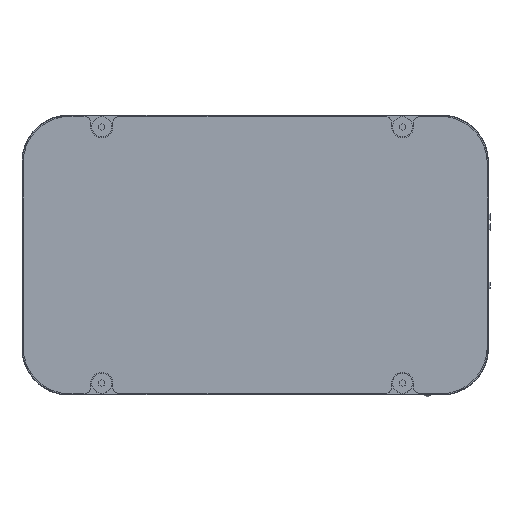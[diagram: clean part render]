
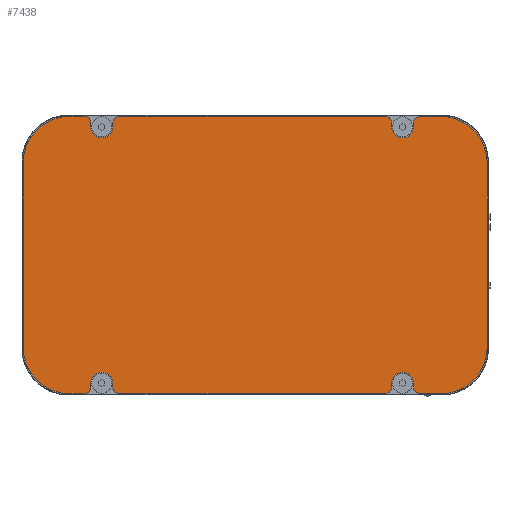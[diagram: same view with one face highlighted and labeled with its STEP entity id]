
A CAD part, front view. The second image highlights one B-rep face of the part: STEP entity #7438.
In plain terms, the highlighted planar face has unit normal (0, -1, 0).
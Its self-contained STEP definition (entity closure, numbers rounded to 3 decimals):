
#428=LINE('',#11507,#1130);
#431=LINE('',#11515,#1133);
#434=LINE('',#11523,#1136);
#437=LINE('',#11531,#1139);
#440=LINE('',#11539,#1142);
#443=LINE('',#11547,#1145);
#446=LINE('',#11555,#1148);
#449=LINE('',#11563,#1151);
#452=LINE('',#11571,#1154);
#455=LINE('',#11579,#1157);
#458=LINE('',#11587,#1160);
#461=LINE('',#11595,#1163);
#464=LINE('',#11603,#1166);
#467=LINE('',#11611,#1169);
#470=LINE('',#11619,#1172);
#473=LINE('',#11627,#1175);
#1130=VECTOR('',#9076,1000.);
#1133=VECTOR('',#9085,1000.);
#1136=VECTOR('',#9094,1000.);
#1139=VECTOR('',#9103,1000.);
#1142=VECTOR('',#9112,1000.);
#1145=VECTOR('',#9121,1000.);
#1148=VECTOR('',#9130,1000.);
#1151=VECTOR('',#9139,1000.);
#1154=VECTOR('',#9148,1000.);
#1157=VECTOR('',#9157,1000.);
#1160=VECTOR('',#9166,1000.);
#1163=VECTOR('',#9175,1000.);
#1166=VECTOR('',#9184,1000.);
#1169=VECTOR('',#9193,1000.);
#1172=VECTOR('',#9202,1000.);
#1175=VECTOR('',#9211,1000.);
#2114=ORIENTED_EDGE('',*,*,#4030,.F.);
#2115=ORIENTED_EDGE('',*,*,#4092,.F.);
#2116=ORIENTED_EDGE('',*,*,#4090,.F.);
#2117=ORIENTED_EDGE('',*,*,#4088,.F.);
#2118=ORIENTED_EDGE('',*,*,#4086,.T.);
#2119=ORIENTED_EDGE('',*,*,#4084,.F.);
#2120=ORIENTED_EDGE('',*,*,#4082,.F.);
#2121=ORIENTED_EDGE('',*,*,#4080,.F.);
#2122=ORIENTED_EDGE('',*,*,#4078,.F.);
#2123=ORIENTED_EDGE('',*,*,#4076,.F.);
#2124=ORIENTED_EDGE('',*,*,#4074,.T.);
#2125=ORIENTED_EDGE('',*,*,#4072,.F.);
#2126=ORIENTED_EDGE('',*,*,#4070,.F.);
#2127=ORIENTED_EDGE('',*,*,#4068,.F.);
#2128=ORIENTED_EDGE('',*,*,#4066,.F.);
#2129=ORIENTED_EDGE('',*,*,#4064,.F.);
#2130=ORIENTED_EDGE('',*,*,#4062,.F.);
#2131=ORIENTED_EDGE('',*,*,#4060,.F.);
#2132=ORIENTED_EDGE('',*,*,#4058,.F.);
#2133=ORIENTED_EDGE('',*,*,#4056,.F.);
#2134=ORIENTED_EDGE('',*,*,#4054,.T.);
#2135=ORIENTED_EDGE('',*,*,#4052,.F.);
#2136=ORIENTED_EDGE('',*,*,#4050,.F.);
#2137=ORIENTED_EDGE('',*,*,#4048,.F.);
#2138=ORIENTED_EDGE('',*,*,#4046,.F.);
#2139=ORIENTED_EDGE('',*,*,#4044,.F.);
#2140=ORIENTED_EDGE('',*,*,#4042,.T.);
#2141=ORIENTED_EDGE('',*,*,#4040,.F.);
#2142=ORIENTED_EDGE('',*,*,#4038,.F.);
#2143=ORIENTED_EDGE('',*,*,#4036,.F.);
#2144=ORIENTED_EDGE('',*,*,#4034,.F.);
#2145=ORIENTED_EDGE('',*,*,#4032,.F.);
#4030=EDGE_CURVE('',#5051,#5052,#5660,.T.);
#4032=EDGE_CURVE('',#5052,#5053,#428,.T.);
#4034=EDGE_CURVE('',#5053,#5054,#5661,.T.);
#4036=EDGE_CURVE('',#5054,#5055,#431,.T.);
#4038=EDGE_CURVE('',#5055,#5056,#5662,.T.);
#4040=EDGE_CURVE('',#5056,#5057,#434,.T.);
#4042=EDGE_CURVE('',#5058,#5057,#5663,.T.);
#4044=EDGE_CURVE('',#5058,#5059,#437,.T.);
#4046=EDGE_CURVE('',#5059,#5060,#5664,.T.);
#4048=EDGE_CURVE('',#5060,#5061,#440,.T.);
#4050=EDGE_CURVE('',#5061,#5062,#5665,.T.);
#4052=EDGE_CURVE('',#5062,#5063,#443,.T.);
#4054=EDGE_CURVE('',#5064,#5063,#5666,.T.);
#4056=EDGE_CURVE('',#5064,#5065,#446,.T.);
#4058=EDGE_CURVE('',#5065,#5066,#5667,.T.);
#4060=EDGE_CURVE('',#5066,#5067,#449,.T.);
#4062=EDGE_CURVE('',#5067,#5068,#5668,.T.);
#4064=EDGE_CURVE('',#5068,#5069,#452,.T.);
#4066=EDGE_CURVE('',#5069,#5070,#5669,.T.);
#4068=EDGE_CURVE('',#5070,#5071,#455,.T.);
#4070=EDGE_CURVE('',#5071,#5072,#5670,.T.);
#4072=EDGE_CURVE('',#5072,#5073,#458,.T.);
#4074=EDGE_CURVE('',#5074,#5073,#5671,.T.);
#4076=EDGE_CURVE('',#5074,#5075,#461,.T.);
#4078=EDGE_CURVE('',#5075,#5076,#5672,.T.);
#4080=EDGE_CURVE('',#5076,#5077,#464,.T.);
#4082=EDGE_CURVE('',#5077,#5078,#5673,.T.);
#4084=EDGE_CURVE('',#5078,#5079,#467,.T.);
#4086=EDGE_CURVE('',#5080,#5079,#5674,.T.);
#4088=EDGE_CURVE('',#5080,#5081,#470,.T.);
#4090=EDGE_CURVE('',#5081,#5082,#5675,.T.);
#4092=EDGE_CURVE('',#5082,#5051,#473,.T.);
#5051=VERTEX_POINT('',#11502);
#5052=VERTEX_POINT('',#11504);
#5053=VERTEX_POINT('',#11508);
#5054=VERTEX_POINT('',#11512);
#5055=VERTEX_POINT('',#11516);
#5056=VERTEX_POINT('',#11520);
#5057=VERTEX_POINT('',#11524);
#5058=VERTEX_POINT('',#11528);
#5059=VERTEX_POINT('',#11532);
#5060=VERTEX_POINT('',#11536);
#5061=VERTEX_POINT('',#11540);
#5062=VERTEX_POINT('',#11544);
#5063=VERTEX_POINT('',#11548);
#5064=VERTEX_POINT('',#11552);
#5065=VERTEX_POINT('',#11556);
#5066=VERTEX_POINT('',#11560);
#5067=VERTEX_POINT('',#11564);
#5068=VERTEX_POINT('',#11568);
#5069=VERTEX_POINT('',#11572);
#5070=VERTEX_POINT('',#11576);
#5071=VERTEX_POINT('',#11580);
#5072=VERTEX_POINT('',#11584);
#5073=VERTEX_POINT('',#11588);
#5074=VERTEX_POINT('',#11592);
#5075=VERTEX_POINT('',#11596);
#5076=VERTEX_POINT('',#11600);
#5077=VERTEX_POINT('',#11604);
#5078=VERTEX_POINT('',#11608);
#5079=VERTEX_POINT('',#11612);
#5080=VERTEX_POINT('',#11616);
#5081=VERTEX_POINT('',#11620);
#5082=VERTEX_POINT('',#11624);
#5660=CIRCLE('',#8015,20.);
#5661=CIRCLE('',#8018,20.);
#5662=CIRCLE('',#8021,3.);
#5663=CIRCLE('',#8024,4.7);
#5664=CIRCLE('',#8027,3.);
#5665=CIRCLE('',#8030,3.);
#5666=CIRCLE('',#8033,4.7);
#5667=CIRCLE('',#8036,3.);
#5668=CIRCLE('',#8039,20.);
#5669=CIRCLE('',#8042,20.);
#5670=CIRCLE('',#8045,3.);
#5671=CIRCLE('',#8048,4.7);
#5672=CIRCLE('',#8051,3.);
#5673=CIRCLE('',#8054,3.);
#5674=CIRCLE('',#8057,4.7);
#5675=CIRCLE('',#8060,3.);
#5966=EDGE_LOOP('',(#2114,#2115,#2116,#2117,#2118,#2119,#2120,#2121,#2122,
#2123,#2124,#2125,#2126,#2127,#2128,#2129,#2130,#2131,#2132,#2133,#2134,
#2135,#2136,#2137,#2138,#2139,#2140,#2141,#2142,#2143,#2144,#2145));
#6564=FACE_BOUND('',#5966,.T.);
#7110=PLANE('',#8062);
#7438=ADVANCED_FACE('',(#6564),#7110,.F.);
#8015=AXIS2_PLACEMENT_3D('',#11503,#9071,#9072);
#8018=AXIS2_PLACEMENT_3D('',#11511,#9080,#9081);
#8021=AXIS2_PLACEMENT_3D('',#11519,#9089,#9090);
#8024=AXIS2_PLACEMENT_3D('',#11527,#9098,#9099);
#8027=AXIS2_PLACEMENT_3D('',#11535,#9107,#9108);
#8030=AXIS2_PLACEMENT_3D('',#11543,#9116,#9117);
#8033=AXIS2_PLACEMENT_3D('',#11551,#9125,#9126);
#8036=AXIS2_PLACEMENT_3D('',#11559,#9134,#9135);
#8039=AXIS2_PLACEMENT_3D('',#11567,#9143,#9144);
#8042=AXIS2_PLACEMENT_3D('',#11575,#9152,#9153);
#8045=AXIS2_PLACEMENT_3D('',#11583,#9161,#9162);
#8048=AXIS2_PLACEMENT_3D('',#11591,#9170,#9171);
#8051=AXIS2_PLACEMENT_3D('',#11599,#9179,#9180);
#8054=AXIS2_PLACEMENT_3D('',#11607,#9188,#9189);
#8057=AXIS2_PLACEMENT_3D('',#11615,#9197,#9198);
#8060=AXIS2_PLACEMENT_3D('',#11623,#9206,#9207);
#8062=AXIS2_PLACEMENT_3D('',#11628,#9212,#9213);
#9071=DIRECTION('',(0.,1.,0.));
#9072=DIRECTION('',(1.,0.,0.));
#9076=DIRECTION('',(0.,0.,1.));
#9080=DIRECTION('',(0.,1.,0.));
#9081=DIRECTION('',(1.,0.,0.));
#9085=DIRECTION('',(1.,0.,0.));
#9089=DIRECTION('',(0.,1.,0.));
#9090=DIRECTION('',(1.,0.,0.));
#9094=DIRECTION('',(0.,0.,-1.));
#9098=DIRECTION('',(0.,1.,0.));
#9099=DIRECTION('',(1.,0.,0.));
#9103=DIRECTION('',(0.,0.,1.));
#9107=DIRECTION('',(0.,1.,0.));
#9108=DIRECTION('',(1.,0.,0.));
#9112=DIRECTION('',(1.,0.,0.));
#9116=DIRECTION('',(0.,1.,0.));
#9117=DIRECTION('',(1.,0.,0.));
#9121=DIRECTION('',(0.,0.,-1.));
#9125=DIRECTION('',(0.,1.,0.));
#9126=DIRECTION('',(1.,0.,0.));
#9130=DIRECTION('',(0.,0.,1.));
#9134=DIRECTION('',(0.,1.,0.));
#9135=DIRECTION('',(1.,0.,0.));
#9139=DIRECTION('',(1.,0.,0.));
#9143=DIRECTION('',(0.,1.,0.));
#9144=DIRECTION('',(1.,0.,0.));
#9148=DIRECTION('',(0.,0.,-1.));
#9152=DIRECTION('',(0.,1.,0.));
#9153=DIRECTION('',(1.,0.,0.));
#9157=DIRECTION('',(-1.,0.,0.));
#9161=DIRECTION('',(0.,1.,0.));
#9162=DIRECTION('',(1.,0.,0.));
#9166=DIRECTION('',(0.,0.,1.));
#9170=DIRECTION('',(0.,1.,0.));
#9171=DIRECTION('',(1.,0.,0.));
#9175=DIRECTION('',(0.,0.,-1.));
#9179=DIRECTION('',(0.,1.,0.));
#9180=DIRECTION('',(1.,0.,0.));
#9184=DIRECTION('',(-1.,0.,0.));
#9188=DIRECTION('',(0.,1.,0.));
#9189=DIRECTION('',(1.,0.,0.));
#9193=DIRECTION('',(0.,0.,1.));
#9197=DIRECTION('',(0.,1.,0.));
#9198=DIRECTION('',(1.,0.,0.));
#9202=DIRECTION('',(0.,0.,-1.));
#9206=DIRECTION('',(0.,1.,0.));
#9207=DIRECTION('',(1.,0.,0.));
#9211=DIRECTION('',(-1.,0.,0.));
#9212=DIRECTION('',(0.,1.,0.));
#9213=DIRECTION('',(0.,0.,1.));
#11502=CARTESIAN_POINT('',(-79.5,-91.,-59.5));
#11503=CARTESIAN_POINT('',(-79.5,-91.,-39.5));
#11504=CARTESIAN_POINT('',(-99.5,-91.,-39.5));
#11507=CARTESIAN_POINT('',(-99.5,-91.,-39.5));
#11508=CARTESIAN_POINT('',(-99.5,-91.,39.5));
#11511=CARTESIAN_POINT('',(-79.5,-91.,39.5));
#11512=CARTESIAN_POINT('',(-79.5,-91.,59.5));
#11515=CARTESIAN_POINT('',(-79.5,-91.,59.5));
#11516=CARTESIAN_POINT('',(-73.5,-91.,59.5));
#11519=CARTESIAN_POINT('',(-73.5,-91.,56.5));
#11520=CARTESIAN_POINT('',(-70.5,-91.,56.5));
#11523=CARTESIAN_POINT('',(-70.5,-91.,56.5));
#11524=CARTESIAN_POINT('',(-70.5,-91.,55.));
#11527=CARTESIAN_POINT('',(-65.8,-91.,55.));
#11528=CARTESIAN_POINT('',(-61.1,-91.,55.));
#11531=CARTESIAN_POINT('',(-61.1,-91.,55.));
#11532=CARTESIAN_POINT('',(-61.1,-91.,56.5));
#11535=CARTESIAN_POINT('',(-58.1,-91.,56.5));
#11536=CARTESIAN_POINT('',(-58.1,-91.,59.5));
#11539=CARTESIAN_POINT('',(-58.1,-91.,59.5));
#11540=CARTESIAN_POINT('',(55.5,-91.,59.5));
#11543=CARTESIAN_POINT('',(55.5,-91.,56.5));
#11544=CARTESIAN_POINT('',(58.5,-91.,56.5));
#11547=CARTESIAN_POINT('',(58.5,-91.,56.5));
#11548=CARTESIAN_POINT('',(58.5,-91.,55.));
#11551=CARTESIAN_POINT('',(63.2,-91.,55.));
#11552=CARTESIAN_POINT('',(67.9,-91.,55.));
#11555=CARTESIAN_POINT('',(67.9,-91.,55.));
#11556=CARTESIAN_POINT('',(67.9,-91.,56.5));
#11559=CARTESIAN_POINT('',(70.9,-91.,56.5));
#11560=CARTESIAN_POINT('',(70.9,-91.,59.5));
#11563=CARTESIAN_POINT('',(70.9,-91.,59.5));
#11564=CARTESIAN_POINT('',(79.5,-91.,59.5));
#11567=CARTESIAN_POINT('',(79.5,-91.,39.5));
#11568=CARTESIAN_POINT('',(99.5,-91.,39.5));
#11571=CARTESIAN_POINT('',(99.5,-91.,39.5));
#11572=CARTESIAN_POINT('',(99.5,-91.,-39.5));
#11575=CARTESIAN_POINT('',(79.5,-91.,-39.5));
#11576=CARTESIAN_POINT('',(79.5,-91.,-59.5));
#11579=CARTESIAN_POINT('',(79.5,-91.,-59.5));
#11580=CARTESIAN_POINT('',(70.9,-91.,-59.5));
#11583=CARTESIAN_POINT('',(70.9,-91.,-56.5));
#11584=CARTESIAN_POINT('',(67.9,-91.,-56.5));
#11587=CARTESIAN_POINT('',(67.9,-91.,-56.5));
#11588=CARTESIAN_POINT('',(67.9,-91.,-55.));
#11591=CARTESIAN_POINT('',(63.2,-91.,-55.));
#11592=CARTESIAN_POINT('',(58.5,-91.,-55.));
#11595=CARTESIAN_POINT('',(58.5,-91.,-55.));
#11596=CARTESIAN_POINT('',(58.5,-91.,-56.5));
#11599=CARTESIAN_POINT('',(55.5,-91.,-56.5));
#11600=CARTESIAN_POINT('',(55.5,-91.,-59.5));
#11603=CARTESIAN_POINT('',(55.5,-91.,-59.5));
#11604=CARTESIAN_POINT('',(-58.1,-91.,-59.5));
#11607=CARTESIAN_POINT('',(-58.1,-91.,-56.5));
#11608=CARTESIAN_POINT('',(-61.1,-91.,-56.5));
#11611=CARTESIAN_POINT('',(-61.1,-91.,-56.5));
#11612=CARTESIAN_POINT('',(-61.1,-91.,-55.));
#11615=CARTESIAN_POINT('',(-65.8,-91.,-55.));
#11616=CARTESIAN_POINT('',(-70.5,-91.,-55.));
#11619=CARTESIAN_POINT('',(-70.5,-91.,-55.));
#11620=CARTESIAN_POINT('',(-70.5,-91.,-56.5));
#11623=CARTESIAN_POINT('',(-73.5,-91.,-56.5));
#11624=CARTESIAN_POINT('',(-73.5,-91.,-59.5));
#11627=CARTESIAN_POINT('',(-73.5,-91.,-59.5));
#11628=CARTESIAN_POINT('',(-79.5,-91.,-39.5));
